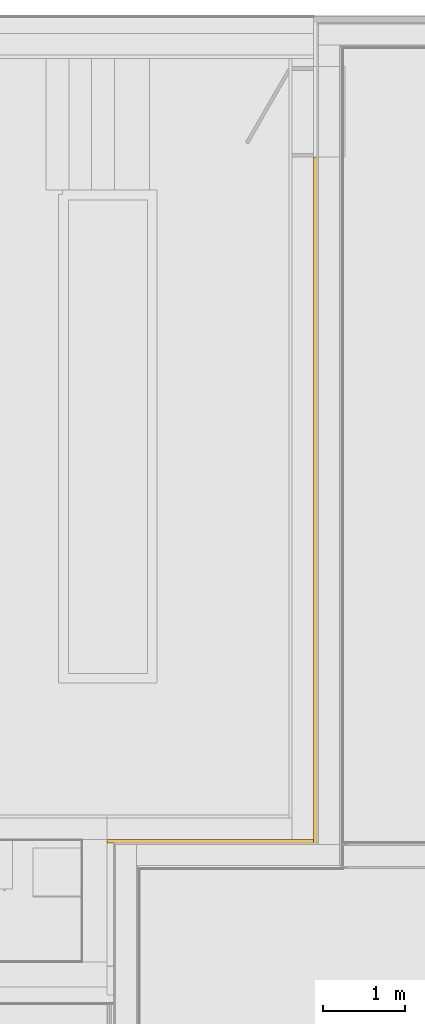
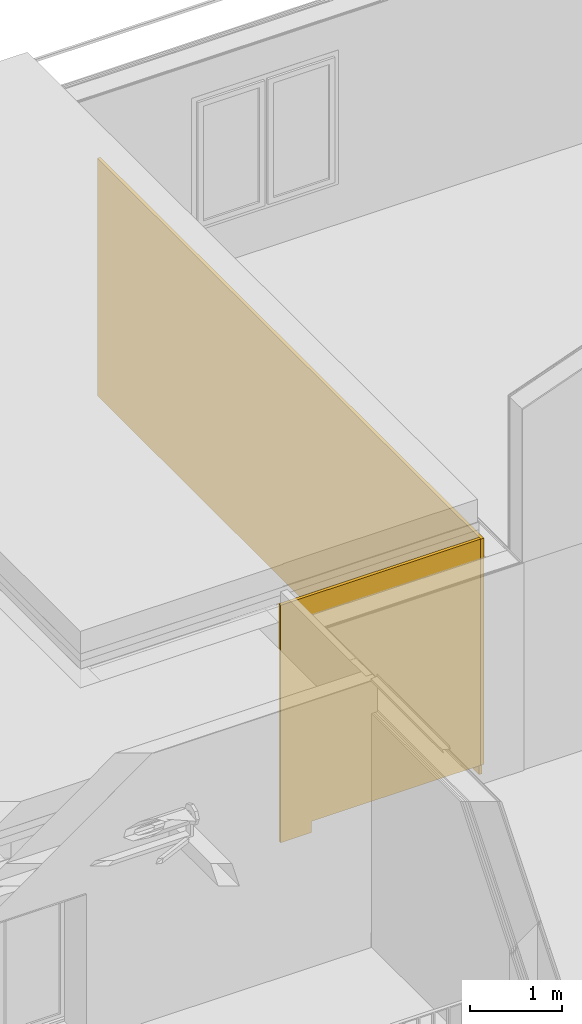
# One storey, part 28 of 36: 2 coverings.
"""IFC4 building model written with IfcOpenShell, lengths in millimetres."""

from ifc_helpers import new_model, entity, si_unit, converted_unit, derived_unit, direction, frame, origin_with_axes, place, context, subcontext, project, spatial, polygons, material, type_object, element, save


model = new_model("IFC4")

# Units and contexts
model_context = context("Model", 3, precision=0.01, world=origin_with_axes(), true_north=direction((0.0, 1.0)))
body_context = subcontext(model_context, "Body", "Model", "MODEL_VIEW")
ifc_project = project(units=[si_unit("LENGTHUNIT", "METRE", prefix="MILLI"), si_unit("AREAUNIT", "SQUARE_METRE"), si_unit("VOLUMEUNIT", "CUBIC_METRE"), converted_unit("PLANEANGLEUNIT", "DEGREE", entity("IfcPlaneAngleMeasure", 0.0174532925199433), si_unit("PLANEANGLEUNIT", "RADIAN"), dimensions=[0, 0, 0, 0, 0, 0, 0]), converted_unit("TIMEUNIT", "Year", entity("IfcTimeMeasure", 31557600.0), si_unit("TIMEUNIT", "SECOND"), dimensions=[0, 0, 1, 0, 0, 0, 0]), si_unit("MASSUNIT", "GRAM", prefix="KILO"), si_unit("THERMODYNAMICTEMPERATUREUNIT", "DEGREE_CELSIUS"), si_unit("LUMINOUSINTENSITYUNIT", "LUMEN"), si_unit("ENERGYUNIT", "JOULE", prefix="MEGA"), derived_unit("THERMALCONDUCTANCEUNIT", [(si_unit("POWERUNIT", "WATT"), 1), (si_unit("LENGTHUNIT", "METRE"), -1), (si_unit("THERMODYNAMICTEMPERATUREUNIT", "KELVIN"), -1)]), derived_unit("SPECIFICHEATCAPACITYUNIT", [(si_unit("ENERGYUNIT", "JOULE"), 1), (si_unit("MASSUNIT", "GRAM", prefix="KILO"), -1), (si_unit("THERMODYNAMICTEMPERATUREUNIT", "KELVIN"), -1)]), derived_unit("MASSDENSITYUNIT", [(si_unit("MASSUNIT", "GRAM", prefix="KILO"), 1), (si_unit("VOLUMEUNIT", "CUBIC_METRE"), -1)])], contexts=[model_context])

# Site, building, storey
site_placement = place(None, origin_with_axes())
site = spatial("IfcSite", under=ifc_project, at=site_placement, Name="Gelände", CompositionType="ELEMENT")
building_placement = place(site_placement, origin_with_axes())
building = spatial("IfcBuilding", under=site, at=building_placement, Name="Gebäude", CompositionType="ELEMENT")
storey_placement = place(building_placement, frame((0.0, 0.0, 8700.0), z_axis=(0.0, 0.0, 1.0), x_axis=(1.0, 0.0, 0.0)))
storey = spatial("IfcBuildingStorey", under=building, at=storey_placement, Name="Attika", CompositionType="ELEMENT", Elevation=8700.0)

# Coverings
ifc_material = material(Name="Dämmung Innen")
covering_type = type_object("IfcCoveringType", Name="Dämmung Innen 40", PredefinedType="NOTDEFINED")
covering_1_placement = place(storey_placement, frame((17919.99744477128, 27947.59728131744, 500.0), z_axis=(0.0, 0.0, 1.0), x_axis=(1.0, 0.0, 0.0)))
element("IfcCovering", 1, at=covering_1_placement, inside=storey, type_object=covering_type, material=ifc_material, Name="Wand-014", PredefinedType="NOTDEFINED", context=body_context, shape_type="Tessellation", body=[
    polygons([(2509.0, 0.0, 150.0000000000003), (2509.0, 0.0, 3149.999999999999), (2509.0, -39.99999999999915, 3149.999999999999), (2509.0, -39.99999999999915, 150.0000000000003), (0.0, 0.0, 3149.999999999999), (387.9999999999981, 0.0, 150.0000000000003), (387.9999999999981, 0.0, 0.0), (0.0, 0.0, 0.0), (0.0, -39.99999999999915, 3149.999999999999), (0.0, -39.99999999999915, 0.0), (387.9999999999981, -39.99999999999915, 0.0), (387.9999999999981, -39.99999999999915, 150.0000000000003)], [[[1, 2, 3, 4]], [[5, 2, 1, 6, 7, 8]], [[3, 2, 5, 9]], [[9, 10, 11, 12, 4, 3]], [[1, 4, 12, 6]], [[12, 11, 7, 6]], [[11, 10, 8, 7]], [[8, 10, 9, 5]]], closed=True),
])
covering_2_placement = place(storey_placement, frame((20428.99744477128, 27947.59728131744, 500.0), z_axis=(0.0, 0.0, 1.0), x_axis=(0.0, 1.0, 0.0)))
element("IfcCovering", 2, at=covering_2_placement, inside=storey, type_object=covering_type, material=ifc_material, Name="Wand-015", PredefinedType="NOTDEFINED", context=body_context, shape_type="Tessellation", body=[
    polygons([(-39.99999999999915, -39.99999999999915, 150.0000000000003), (0.0, -39.99999999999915, 150.0000000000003), (0.0, -39.99999999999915, 0.0), (8289.999999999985, -39.99999999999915, 0.0), (8289.999999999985, -39.99999999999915, 3149.999999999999), (-39.99999999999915, -39.99999999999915, 3149.999999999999), (0.0, 0.0, 150.0000000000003), (-39.99999999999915, 0.0, 150.0000000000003), (0.0, 0.0, 0.0), (8289.999999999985, 0.0, 0.0), (8289.999999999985, 0.0, 3149.999999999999), (-39.99999999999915, 0.0, 3149.999999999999)], [[[1, 2, 3, 4, 5, 6]], [[7, 2, 1, 8]], [[3, 2, 7, 9]], [[4, 3, 9, 10]], [[10, 11, 5, 4]], [[12, 6, 5, 11]], [[12, 8, 1, 6]], [[9, 7, 8, 12, 11, 10]]], closed=True),
])

save(model, "model.ifc")
